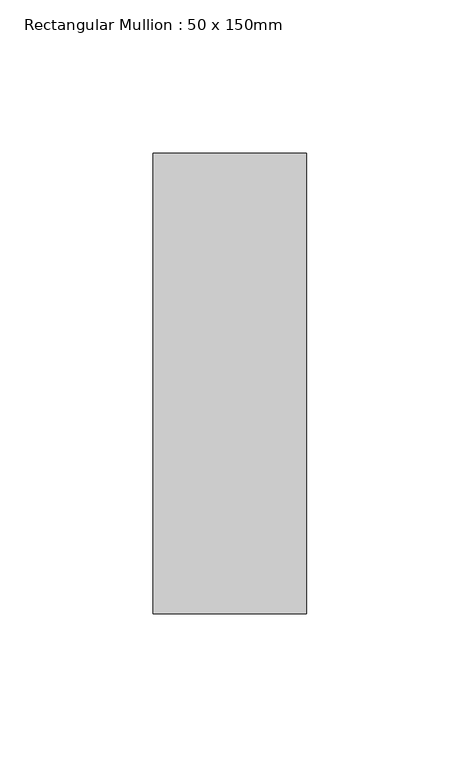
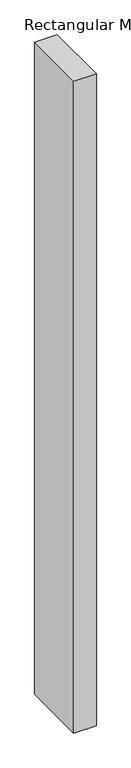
"""IFC4 building model written with IfcOpenShell, lengths in millimetres: member geometry, Rectangular Mullion : 50 x 150mm."""

from ifc_helpers import new_model, si_unit, frame, origin, place, context, project, spatial, polyline, outline, extrude, source, transform, mapped, element, save


def rectangular_mullion_50_x_150mm_7758c952(model_context):
    return source(origin(), model_context, "Body", "SweptSolid", [
        extrude(outline(polyline([(25.0, 75.0), (25.0, -75.0), (-25.0, -75.0), (-25.0, 75.0), (25.0, 75.0)])), frame((0.0, 0.0, -1526.9163327), z_axis=(0.0, 0.0, 1.0), x_axis=(1.0, 0.0, 0.0)), (0.0, 0.0, 1.0), 1526.9163327),
    ])


if __name__ == "__main__":
    model = new_model("IFC4")
    model_context = context("Model", 3, world=origin())
    ifc_project = project(units=[si_unit("LENGTHUNIT", "METRE", prefix="MILLI")], contexts=[model_context])
    site = spatial("IfcSite", under=ifc_project)
    building = spatial("IfcBuilding", under=site)
    placement = place(None, origin())
    rectangular_mullion_50_x_150mm_shape = rectangular_mullion_50_x_150mm_7758c952(model_context)
    element("IfcMember", 1, ObjectType="Rectangular Mullion : 50 x 150mm", at=placement, inside=building, context=model_context, shape_type="MappedRepresentation", body=[
        mapped(rectangular_mullion_50_x_150mm_shape, transform((0.0, 0.0, 0.0), x_axis=(1.0, 0.0, 0.0), y_axis=(0.0, 1.0, 0.0), z_axis=(0.0, 0.0, 1.0))),
    ])
    save(model, "model.ifc")
